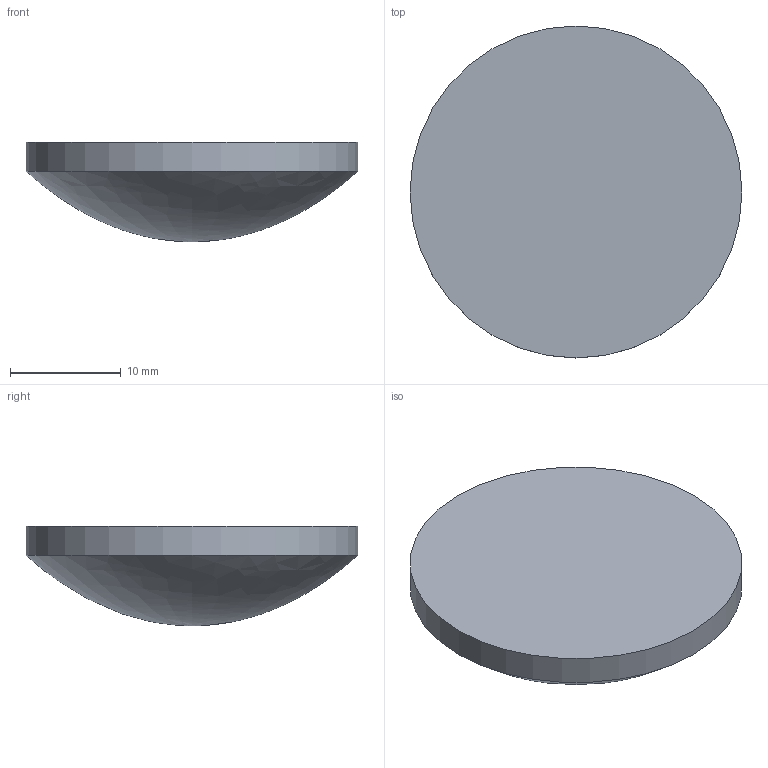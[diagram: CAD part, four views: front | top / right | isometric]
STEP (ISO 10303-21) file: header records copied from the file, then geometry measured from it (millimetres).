
FILE_DESCRIPTION(/* description */ (''),/* implementation_level */ '2;1');
FILE_NAME(/* name */ 'D:\AGL CAD化\780\ZMX⇒STPファイル\Imported Components\AGL-30-G※-24P\AGL-30-G※-24P.stp',/* time_stamp */ '2016-12-07T17:55:55+09:00',/* author */ ('r.osada'),/* organization */ (''),/* preprocessor_version */ 'ST-DEVELOPER v15.6',/* originating_system */ 'Autodesk Inventor 2015',/* authorisation */ '');
FILE_SCHEMA (('AUTOMOTIVE_DESIGN { 1 0 10303 214 3 1 1 }'));
Length unit declared in the file: millimetre
Products named in the file (1): AGL-30-G※-24P
Bounding box: 30 x 30 x 9 mm (x, y, z)
Volume: 4156.4 mm3; surface area: 1780.8 mm2
Topology: 1 solids, 1 shells, 3 faces, 6 edges, 4 vertices
Faces by surface type: cylinder 1, bspline 1, plane 1
Full cylindrical faces by diameter (mm): 30 x1
Entity records: 275 total; most frequent: CARTESIAN_POINT 204, DIRECTION 10, ORIENTED_EDGE 6, AXIS2_PLACEMENT_3D 5, EDGE_LOOP 4, FACE_OUTER_BOUND 3, VERTEX_POINT 3, EDGE_CURVE 3
